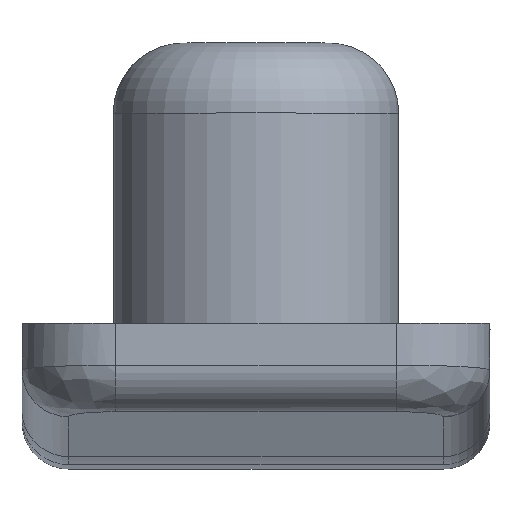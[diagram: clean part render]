
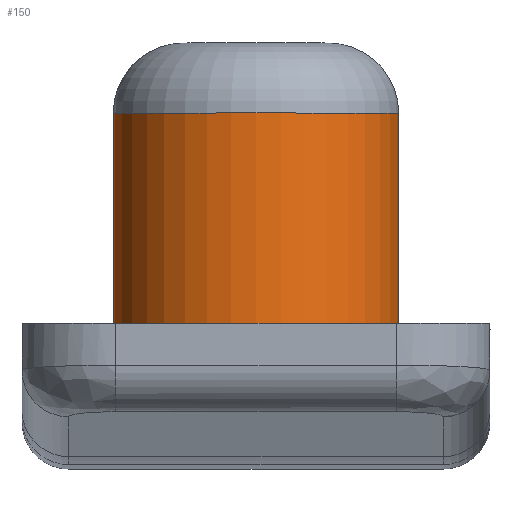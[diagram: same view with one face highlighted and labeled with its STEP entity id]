
A CAD part, top view. The second image highlights one B-rep face of the part: STEP entity #150.
In plain terms, the highlighted cylindrical face has radius 3.05 mm (diameter 6.1 mm), a partial arc.
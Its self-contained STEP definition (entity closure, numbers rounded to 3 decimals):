
#115=VECTOR('Line Direction',#114,1.) ;
#129=VECTOR('Line Direction',#128,1.) ;
#73=DIRECTION('Axis2P3D Direction',(0.,1.,0.)) ;
#109=DIRECTION('Axis2P3D Direction',(0.,1.,0.)) ;
#110=DIRECTION('Axis2P3D XDirection',(-1.,0.,0.)) ;
#114=DIRECTION('Vector Direction',(0.,1.,0.)) ;
#128=DIRECTION('Vector Direction',(0.,1.,0.)) ;
#140=DIRECTION('Axis2P3D Direction',(0.,1.,0.)) ;
#69=CARTESIAN_POINT('Vertex',(1076.957,-577.011,358.73)) ;
#72=CARTESIAN_POINT('Axis2P3D Location',(1080.007,-577.011,358.73)) ;
#76=CARTESIAN_POINT('Vertex',(1083.057,-577.011,358.73)) ;
#108=CARTESIAN_POINT('Axis2P3D Location',(1080.007,-578.511,358.73)) ;
#113=CARTESIAN_POINT('Line Origine',(1083.057,-578.511,358.73)) ;
#117=CARTESIAN_POINT('Vertex',(1083.057,-581.511,358.73)) ;
#124=CARTESIAN_POINT('Vertex',(1076.957,-581.511,358.73)) ;
#127=CARTESIAN_POINT('Line Origine',(1076.957,-578.511,358.73)) ;
#139=CARTESIAN_POINT('Axis2P3D Location',(1080.007,-581.511,358.73)) ;
#74=AXIS2_PLACEMENT_3D('Circle Axis2P3D',#72,#73,$) ;
#111=AXIS2_PLACEMENT_3D('Cylinder Axis2P3D',#108,#109,#110) ;
#141=AXIS2_PLACEMENT_3D('Circle Axis2P3D',#139,#140,$) ;
#78=EDGE_CURVE('',#70,#77,#75,.T.) ;
#119=EDGE_CURVE('',#118,#77,#116,.T.) ;
#131=EDGE_CURVE('',#125,#70,#130,.T.) ;
#143=EDGE_CURVE('',#125,#118,#142,.T.) ;
#145=ORIENTED_EDGE('',*,*,#131,.F.) ;
#146=ORIENTED_EDGE('',*,*,#143,.T.) ;
#147=ORIENTED_EDGE('',*,*,#119,.T.) ;
#148=ORIENTED_EDGE('',*,*,#78,.F.) ;
#116=LINE('Line',#113,#115) ;
#130=LINE('Line',#127,#129) ;
#150=ADVANCED_FACE('\X2\96F64EF651E04F554F53\X0\',(#149),#112,.T.) ;
#75=CIRCLE('generated circle',#74,3.05) ;
#142=CIRCLE('generated circle',#141,3.05) ;
#112=CYLINDRICAL_SURFACE('generated cylinder',#111,3.05) ;
#70=VERTEX_POINT('',#69) ;
#77=VERTEX_POINT('',#76) ;
#118=VERTEX_POINT('',#117) ;
#125=VERTEX_POINT('',#124) ;
#144=EDGE_LOOP('',(#145,#146,#147,#148)) ;
#149=FACE_OUTER_BOUND('',#144,.T.) ;
